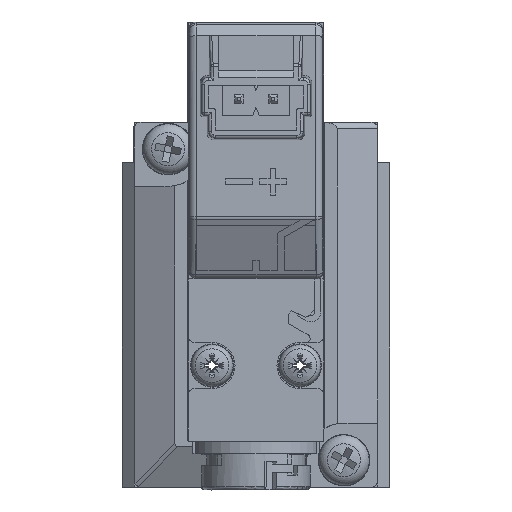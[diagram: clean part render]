
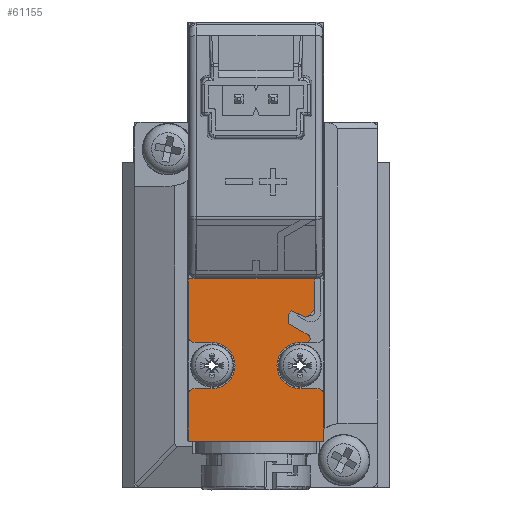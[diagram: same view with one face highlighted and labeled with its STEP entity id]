
A CAD part, left-side view. The second image highlights one B-rep face of the part: STEP entity #61155.
In plain terms, the highlighted planar face has unit normal (-1, 0, 0).
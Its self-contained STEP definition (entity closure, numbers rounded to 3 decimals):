
#42306=CARTESIAN_POINT('',(-59.,-5.,-10.1));
#42307=VERTEX_POINT('',#42306);
#42314=CARTESIAN_POINT('',(-59.,5.,-10.1));
#42315=VERTEX_POINT('',#42314);
#42316=CARTESIAN_POINT('',(-59.,5.,-10.1));
#42317=DIRECTION('',(0.,-1.0,0.));
#42318=VECTOR('',#42317,10.0);
#42319=LINE('',#42316,#42318);
#42320=EDGE_CURVE('',#42315,#42307,#42319,.T.);
#60683=CARTESIAN_POINT('',(-59.,-3.855,-2.24));
#60684=VERTEX_POINT('',#60683);
#60692=CARTESIAN_POINT('',(-59.,-2.4,-1.4));
#60693=VERTEX_POINT('',#60692);
#60700=CARTESIAN_POINT('',(-59.,-3.855,-2.24));
#60701=DIRECTION('',(0.,0.866,0.5));
#60702=VECTOR('',#60701,1.68);
#60703=LINE('',#60700,#60702);
#60704=EDGE_CURVE('',#60684,#60693,#60703,.T.);
#60715=CARTESIAN_POINT('',(-59.,-2.4,-0.7));
#60716=VERTEX_POINT('',#60715);
#60723=CARTESIAN_POINT('',(-59.,-2.4,-1.4));
#60724=DIRECTION('',(0.,0.,1.0));
#60725=VECTOR('',#60724,0.7);
#60726=LINE('',#60723,#60725);
#60727=EDGE_CURVE('',#60693,#60716,#60726,.T.);
#60739=CARTESIAN_POINT('',(-59.,-2.6,-0.459));
#60740=VERTEX_POINT('',#60739);
#60747=CARTESIAN_POINT('',(-59.,-2.4,-0.7));
#60748=DIRECTION('',(0.,-0.639,0.77));
#60749=VECTOR('',#60748,0.313);
#60750=LINE('',#60747,#60749);
#60751=EDGE_CURVE('',#60716,#60740,#60750,.T.);
#60763=CARTESIAN_POINT('',(-59.,-3.689,-0.921));
#60764=VERTEX_POINT('',#60763);
#60771=CARTESIAN_POINT('',(-59.,-2.6,-0.459));
#60772=DIRECTION('',(0.,-0.92,-0.391));
#60773=VECTOR('',#60772,1.183);
#60774=LINE('',#60771,#60773);
#60775=EDGE_CURVE('',#60740,#60764,#60774,.T.);
#60798=CARTESIAN_POINT('',(-59.,-3.918,-0.786));
#60799=VERTEX_POINT('',#60798);
#60806=CARTESIAN_POINT('',(-59.,-3.3,0.));
#60807=DIRECTION('',(-1.0,0.,0.));
#60808=DIRECTION('',(0.,0.389,0.921));
#60809=AXIS2_PLACEMENT_3D('',#60806,#60807,#60808);
#60810=CIRCLE('',#60809,1.0);
#60811=EDGE_CURVE('',#60764,#60799,#60810,.T.);
#60830=CARTESIAN_POINT('',(-59.,-4.35,-0.354));
#60831=VERTEX_POINT('',#60830);
#60838=CARTESIAN_POINT('',(-59.,-3.918,-0.786));
#60839=DIRECTION('',(0.,-0.707,0.707));
#60840=VECTOR('',#60839,0.611);
#60841=LINE('',#60838,#60840);
#60842=EDGE_CURVE('',#60799,#60831,#60841,.T.);
#60855=CARTESIAN_POINT('',(-59.,-4.35,1.9));
#60856=VERTEX_POINT('',#60855);
#60863=CARTESIAN_POINT('',(-59.,-4.35,-0.354));
#60864=DIRECTION('',(0.,0.,1.0));
#60865=VECTOR('',#60864,2.254);
#60866=LINE('',#60863,#60865);
#60867=EDGE_CURVE('',#60831,#60856,#60866,.T.);
#60988=CARTESIAN_POINT('',(-59.,5.,-6.7));
#60989=VERTEX_POINT('',#60988);
#60990=CARTESIAN_POINT('',(-59.,5.,-6.7));
#60991=DIRECTION('',(0.,0.,-1.0));
#60992=VECTOR('',#60991,3.4);
#60993=LINE('',#60990,#60992);
#60994=EDGE_CURVE('',#60989,#42315,#60993,.T.);
#61012=CARTESIAN_POINT('',(-59.,5.,-2.3));
#61013=VERTEX_POINT('',#61012);
#61020=CARTESIAN_POINT('',(-59.,5.,1.9));
#61021=VERTEX_POINT('',#61020);
#61022=CARTESIAN_POINT('',(-59.,5.,1.9));
#61023=DIRECTION('',(0.,0.,-1.0));
#61024=VECTOR('',#61023,4.2);
#61025=LINE('',#61022,#61024);
#61026=EDGE_CURVE('',#61021,#61013,#61025,.T.);
#61042=CARTESIAN_POINT('',(-59.,0.,-4.1));
#61043=DIRECTION('',(-1.0,0.,0.));
#61044=DIRECTION('',(0.,-1.0,0.));
#61045=AXIS2_PLACEMENT_3D('',#61042,#61043,#61044);
#61046=PLANE('',#61045);
#61047=CARTESIAN_POINT('',(-59.,-3.705,-2.8));
#61048=VERTEX_POINT('',#61047);
#61049=CARTESIAN_POINT('',(-59.,-3.705,-2.5));
#61050=DIRECTION('',(1.0,0.,0.));
#61051=DIRECTION('',(0.,0.,-1.0));
#61052=AXIS2_PLACEMENT_3D('',#61049,#61050,#61051);
#61053=CIRCLE('',#61052,0.3);
#61054=EDGE_CURVE('',#60684,#61048,#61053,.T.);
#61055=ORIENTED_EDGE('',*,*,#61054,.F.);
#61056=ORIENTED_EDGE('',*,*,#60704,.T.);
#61057=ORIENTED_EDGE('',*,*,#60727,.T.);
#61058=ORIENTED_EDGE('',*,*,#60751,.T.);
#61059=ORIENTED_EDGE('',*,*,#60775,.T.);
#61060=ORIENTED_EDGE('',*,*,#60811,.T.);
#61061=ORIENTED_EDGE('',*,*,#60842,.T.);
#61062=ORIENTED_EDGE('',*,*,#60867,.T.);
#61063=CARTESIAN_POINT('',(-59.,-4.35,1.9));
#61064=DIRECTION('',(0.,1.0,0.));
#61065=VECTOR('',#61064,9.35);
#61066=LINE('',#61063,#61065);
#61067=EDGE_CURVE('',#60856,#61021,#61066,.T.);
#61068=ORIENTED_EDGE('',*,*,#61067,.T.);
#61069=ORIENTED_EDGE('',*,*,#61026,.T.);
#61070=CARTESIAN_POINT('',(-59.,4.5,-2.8));
#61071=VERTEX_POINT('',#61070);
#61072=CARTESIAN_POINT('',(-59.,4.5,-2.3));
#61073=DIRECTION('',(-1.0,0.,0.));
#61074=DIRECTION('',(0.,-1.0,0.));
#61075=AXIS2_PLACEMENT_3D('',#61072,#61073,#61074);
#61076=CIRCLE('',#61075,0.5);
#61077=EDGE_CURVE('',#61013,#61071,#61076,.T.);
#61078=ORIENTED_EDGE('',*,*,#61077,.T.);
#61079=CARTESIAN_POINT('',(-59.,3.25,-2.8));
#61080=VERTEX_POINT('',#61079);
#61081=CARTESIAN_POINT('',(-59.,4.5,-2.8));
#61082=DIRECTION('',(0.,-1.0,0.));
#61083=VECTOR('',#61082,1.25);
#61084=LINE('',#61081,#61083);
#61085=EDGE_CURVE('',#61071,#61080,#61084,.T.);
#61086=ORIENTED_EDGE('',*,*,#61085,.T.);
#61087=CARTESIAN_POINT('',(-59.,3.25,-6.2));
#61088=VERTEX_POINT('',#61087);
#61089=CARTESIAN_POINT('',(-59.,3.25,-4.5));
#61090=DIRECTION('',(1.0,0.,0.));
#61091=DIRECTION('',(0.,0.,-1.0));
#61092=AXIS2_PLACEMENT_3D('',#61089,#61090,#61091);
#61093=CIRCLE('',#61092,1.7);
#61094=EDGE_CURVE('',#61080,#61088,#61093,.T.);
#61095=ORIENTED_EDGE('',*,*,#61094,.T.);
#61096=CARTESIAN_POINT('',(-59.,4.5,-6.2));
#61097=VERTEX_POINT('',#61096);
#61098=CARTESIAN_POINT('',(-59.,3.25,-6.2));
#61099=DIRECTION('',(0.,1.0,0.));
#61100=VECTOR('',#61099,1.25);
#61101=LINE('',#61098,#61100);
#61102=EDGE_CURVE('',#61088,#61097,#61101,.T.);
#61103=ORIENTED_EDGE('',*,*,#61102,.T.);
#61104=CARTESIAN_POINT('',(-59.,4.5,-6.7));
#61105=DIRECTION('',(-1.0,0.,0.));
#61106=DIRECTION('',(0.,0.,-1.0));
#61107=AXIS2_PLACEMENT_3D('',#61104,#61105,#61106);
#61108=CIRCLE('',#61107,0.5);
#61109=EDGE_CURVE('',#61097,#60989,#61108,.T.);
#61110=ORIENTED_EDGE('',*,*,#61109,.T.);
#61111=ORIENTED_EDGE('',*,*,#60994,.T.);
#61112=ORIENTED_EDGE('',*,*,#42320,.T.);
#61113=CARTESIAN_POINT('',(-59.,-5.,-6.7));
#61114=VERTEX_POINT('',#61113);
#61115=CARTESIAN_POINT('',(-59.,-5.,-10.1));
#61116=DIRECTION('',(0.,0.,1.0));
#61117=VECTOR('',#61116,3.4);
#61118=LINE('',#61115,#61117);
#61119=EDGE_CURVE('',#42307,#61114,#61118,.T.);
#61120=ORIENTED_EDGE('',*,*,#61119,.T.);
#61121=CARTESIAN_POINT('',(-59.,-4.5,-6.2));
#61122=VERTEX_POINT('',#61121);
#61123=CARTESIAN_POINT('',(-59.,-4.5,-6.7));
#61124=DIRECTION('',(-1.0,0.,0.));
#61125=DIRECTION('',(0.,1.0,0.));
#61126=AXIS2_PLACEMENT_3D('',#61123,#61124,#61125);
#61127=CIRCLE('',#61126,0.5);
#61128=EDGE_CURVE('',#61114,#61122,#61127,.T.);
#61129=ORIENTED_EDGE('',*,*,#61128,.T.);
#61130=CARTESIAN_POINT('',(-59.,-3.25,-6.2));
#61131=VERTEX_POINT('',#61130);
#61132=CARTESIAN_POINT('',(-59.,-4.5,-6.2));
#61133=DIRECTION('',(0.,1.0,0.));
#61134=VECTOR('',#61133,1.25);
#61135=LINE('',#61132,#61134);
#61136=EDGE_CURVE('',#61122,#61131,#61135,.T.);
#61137=ORIENTED_EDGE('',*,*,#61136,.T.);
#61138=CARTESIAN_POINT('',(-59.,-3.25,-2.8));
#61139=VERTEX_POINT('',#61138);
#61140=CARTESIAN_POINT('',(-59.,-3.25,-4.5));
#61141=DIRECTION('',(1.0,0.,0.));
#61142=DIRECTION('',(0.,0.,1.0));
#61143=AXIS2_PLACEMENT_3D('',#61140,#61141,#61142);
#61144=CIRCLE('',#61143,1.7);
#61145=EDGE_CURVE('',#61131,#61139,#61144,.T.);
#61146=ORIENTED_EDGE('',*,*,#61145,.T.);
#61147=CARTESIAN_POINT('',(-59.,-3.25,-2.8));
#61148=DIRECTION('',(0.,-1.0,0.));
#61149=VECTOR('',#61148,0.455);
#61150=LINE('',#61147,#61149);
#61151=EDGE_CURVE('',#61139,#61048,#61150,.T.);
#61152=ORIENTED_EDGE('',*,*,#61151,.T.);
#61153=EDGE_LOOP('',(#61055,#61056,#61057,#61058,#61059,#61060,#61061,#61062,#61068,#61069,#61078,#61086,#61095,#61103,#61110,#61111,#61112,#61120,#61129,#61137,#61146,#61152));
#61154=FACE_OUTER_BOUND('',#61153,.T.);
#61155=ADVANCED_FACE('',(#61154),#61046,.T.);
